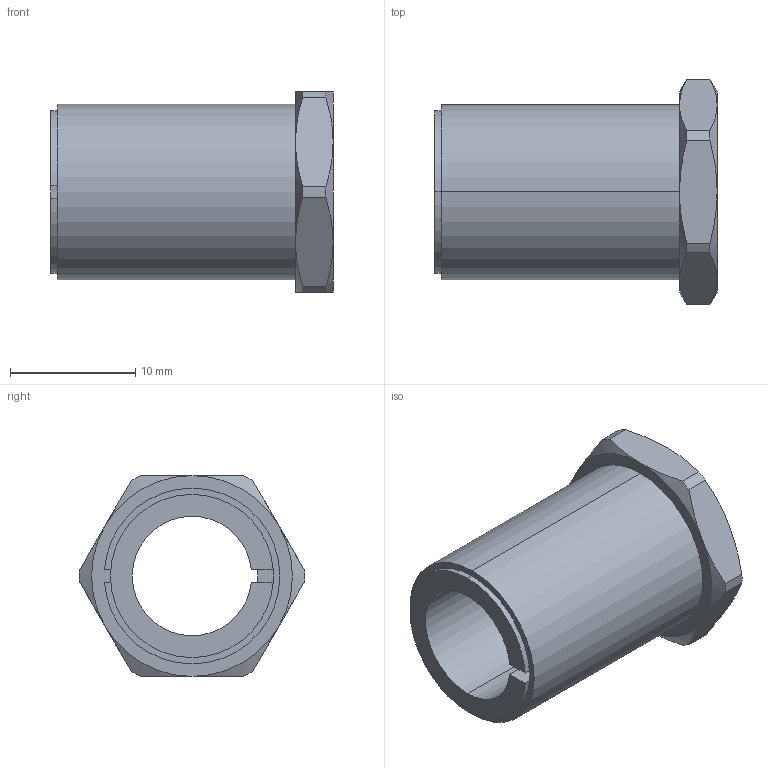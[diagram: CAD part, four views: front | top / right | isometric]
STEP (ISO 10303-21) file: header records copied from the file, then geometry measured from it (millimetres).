
FILE_DESCRIPTION (( 'STEP AP203' ), '1' );
FILE_NAME ('KBS 57 - 9,52 x 14.STEP', '2015-07-05T18:31:54', ( '' ), ( '' ), 'SwSTEP 2.0', 'SolidWorks 2010', '' );
FILE_SCHEMA (( 'CONFIG_CONTROL_DESIGN' ));
Length unit declared in the file: millimetre
Products named in the file (1): KBS 57 - 9,52 x 14
Bounding box: 22.5 x 18 x 16 mm (x, y, z)
Volume: 1988.8 mm3; surface area: 2069.9 mm2
Topology: 1 solids, 1 shells, 47 faces, 118 edges, 74 vertices
Faces by surface type: cylinder 16, plane 16, cone 15
Entity records: 1597 total; most frequent: CARTESIAN_POINT 396, DIRECTION 240, ORIENTED_EDGE 236, EDGE_CURVE 118, AXIS2_PLACEMENT_3D 100, VERTEX_POINT 74, CIRCLE 52, EDGE_LOOP 50
